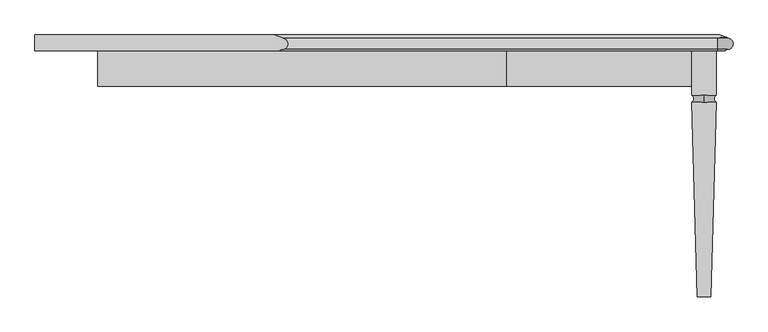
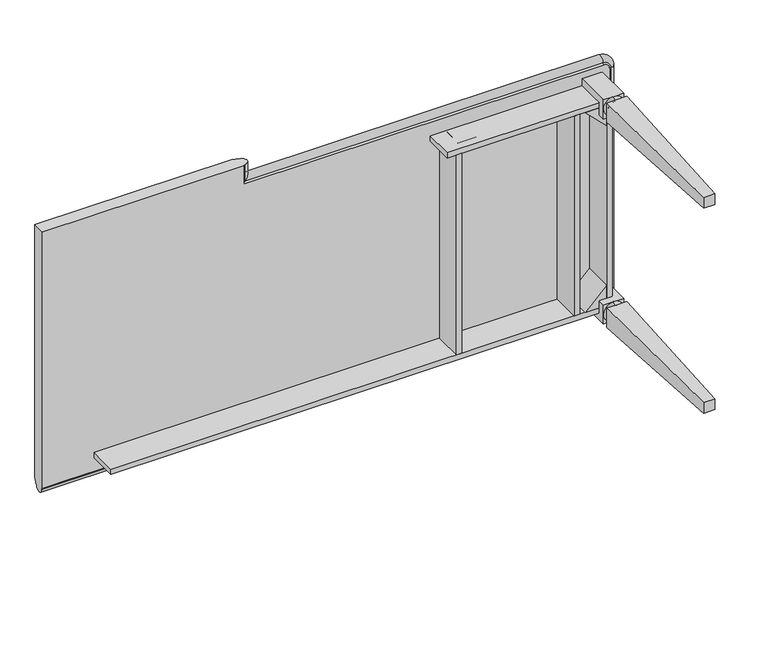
"""IFC4 building model written with IfcOpenShell, lengths in millimetres: proxy geometry, CCN^BRIGHTON_L4 30x78 TABLE DESK-PARTS SOLID."""

from ifc_helpers import new_model, si_unit, point, frame, origin, place, context, project, spatial, polyline, circle_curve, ellipse_curve, trimmed, outline, extrude, source, transform, mapped, element, save
from ifc_brep_helpers import plane_surface, cylinder_surface, revolved_surface, advanced_brep


def generic_models_2689ce13(model_context):
    return source(origin(), model_context, "Body", "SolidModel", [
        advanced_brep(
        [(1981.2, 571.5, -727.075), (1981.2, 561.975, -733.425), (1981.2, 552.45, -727.075), (2016.125, 552.45, -762.0), (1981.2, 552.45, -796.925), (1981.2, 561.975, -790.575), (1981.2, 571.5, -796.925), (2016.125, 571.5, -762.0), (1946.275, 704.85, -796.925), (1946.275, 704.85, -727.075), (2016.125, 704.85, -727.075), (2016.125, 704.85, -796.925), (1946.275, 571.5, -727.075), (2016.125, 571.5, -727.075), (1946.275, 571.5, -762.0), (2016.125, 552.45, -796.925), (2000.25, 0.0, -781.5791667), (1962.15, 0.0, -781.5791667), (1946.275, 552.45, -796.925), (2000.25, 0.0, -742.4208333), (2016.125, 552.45, -727.075), (1946.275, 552.45, -727.075), (1962.15, 0.0, -742.4208333), (1946.275, 552.45, -762.0), (1946.275, 571.5, -796.925), (2016.125, 571.5, -796.925)],
        [
            (0, 1, circle_curve(frame((1981.2, 561.975, -723.10625), z_axis=(-1.0, 0.0, 0.0), x_axis=(0.0, 0.0, 1.0)), 10.31875)),
            (1, 2, circle_curve(frame((1981.2, 561.975, -723.10625), z_axis=(-1.0, 0.0, 0.0), x_axis=(0.0, 0.0, 1.0)), 10.31875)),
            (2, 3, circle_curve(frame((1981.2, 552.45, -762.0), z_axis=(0.0, 1.0, 0.0), x_axis=(0.0, 0.0, 1.0)), 34.925)),
            (3, 4, circle_curve(frame((1981.2, 552.45, -762.0), z_axis=(0.0, 1.0, 0.0), x_axis=(0.0, 0.0, 1.0)), 34.925)),
            (4, 5, circle_curve(frame((1981.2, 561.975, -800.89375), z_axis=(-1.0, 0.0, 0.0), x_axis=(0.0, 0.0, -1.0)), 10.31875)),
            (5, 6, circle_curve(frame((1981.2, 561.975, -800.89375), z_axis=(-1.0, 0.0, 0.0), x_axis=(0.0, 0.0, -1.0)), 10.31875)),
            (6, 7, circle_curve(frame((1981.2, 571.5, -762.0), z_axis=(0.0, -1.0, 0.0), x_axis=(0.0, 0.0, 1.0)), 34.925)),
            (7, 0, circle_curve(frame((1981.2, 571.5, -762.0), z_axis=(0.0, -1.0, 0.0), x_axis=(0.0, 0.0, 1.0)), 34.925)),
            (8, 9),
            (9, 10),
            (10, 11),
            (11, 8),
            (9, 12),
            (12, 0),
            (0, 13),
            (13, 10),
            (12, 14),
            (14, 0, circle_curve(frame((1981.2, 571.5, -762.0), z_axis=(0.0, 1.0, 0.0), x_axis=(0.0, 0.0, -1.0)), 34.925)),
            (15, 16),
            (16, 17),
            (17, 18),
            (18, 4),
            (4, 15),
            (19, 20),
            (20, 2),
            (2, 21),
            (21, 22),
            (22, 19),
            (15, 3),
            (3, 20),
            (19, 16),
            (17, 22),
            (21, 23),
            (23, 18),
            (14, 6, circle_curve(frame((1981.2, 571.5, -762.0), z_axis=(0.0, -1.0, 0.0), x_axis=(0.0, 0.0, -1.0)), 34.925)),
            (4, 23, circle_curve(frame((1981.2, 552.45, -762.0), z_axis=(0.0, 1.0, 0.0), x_axis=(0.0, 0.0, -1.0)), 34.925)),
            (23, 2, circle_curve(frame((1981.2, 552.45, -762.0), z_axis=(0.0, 1.0, 0.0), x_axis=(0.0, 0.0, -1.0)), 34.925)),
            (14, 24),
            (24, 6),
            (7, 13),
            (6, 25),
            (25, 7),
            (8, 24),
            (25, 11),
        ],
        [
            revolved_surface(trimmed(ellipse_curve(frame((1981.2, 561.975, -723.10625), z_axis=(1.0, 0.0, 0.0), x_axis=(0.0, 0.0, 1.0)), 10.31875, 10.31875), [point((1981.2, 552.45, -727.075))], [point((1981.2, 571.5, -727.075))], True, "CARTESIAN"), (1981.2, 561.975, -762.0), (0.0, 1.0, 0.0)),
            plane_surface(frame((1981.2, 704.85, -762.0), z_axis=(0.0, 1.0, 0.0), x_axis=(0.0, 0.0, -1.0))),
            plane_surface(frame((2016.125, 704.85, -727.075), z_axis=(0.0, 0.0, 1.0), x_axis=(-1.0, 0.0, 0.0))),
            plane_surface(frame((1981.2, 571.5, -762.0), z_axis=(0.0, -1.0, 0.0), x_axis=(0.0, 0.0, -1.0))),
            plane_surface(frame((-22.225, 552.45, -796.925), z_axis=(0.0, -0.027767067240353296, -0.9996144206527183), x_axis=(0.0, -0.9996144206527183, 0.027767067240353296))),
            plane_surface(frame((-22.225, -19.05, -742.95), z_axis=(0.0, -0.02776706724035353, 0.9996144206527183), x_axis=(0.0, 0.9996144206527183, 0.02776706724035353))),
            plane_surface(frame((2016.125, 552.45, -796.925), z_axis=(0.9995873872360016, -0.028723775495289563, 0.0), x_axis=(-0.028723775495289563, -0.9995873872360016, 0.0))),
            plane_surface(frame((1962.15, 0.0, -796.925), z_axis=(-0.9995873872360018, -0.028723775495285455, 0.0), x_axis=(-0.028723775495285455, 0.9995873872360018, 0.0))),
            revolved_surface(trimmed(ellipse_curve(frame((1981.2, 561.975, -800.89375), z_axis=(-1.0, 0.0, 0.0), x_axis=(0.0, 0.0, -1.0)), 10.31875, 10.31875), [point((1981.2, 552.45, -796.925))], [point((1981.2, 571.5, -796.925))], True, "CARTESIAN"), (1981.2, 561.975, -762.0), (0.0, 1.0, 0.0)),
            plane_surface(frame((1981.2, 552.45, -762.0), z_axis=(0.0, 1.0, 0.0), x_axis=(0.0, 0.0, -1.0))),
            plane_surface(frame((1946.275, 704.85, -727.075), z_axis=(-1.0, 0.0, 0.0), x_axis=(0.0, 0.0, -1.0))),
            plane_surface(frame((2016.125, 704.85, -796.925), z_axis=(1.0, 0.0, 0.0), x_axis=(0.0, 0.0, 1.0))),
            plane_surface(frame((1946.275, 704.85, -796.925), z_axis=(0.0, 0.0, -1.0), x_axis=(1.0, 0.0, 0.0))),
            plane_surface(frame((1981.2, 0.0, -762.0), z_axis=(0.0, -1.0, 0.0), x_axis=(0.0, 0.0, -1.0))),
        ],
        [
            (0, [[1, 2, 3, 4, 5, 6, 7, 8]]),
            (1, [[9, 10, 11, 12]]),
            (2, [[13, 14, 15, 16, -10]]),
            (3, [[17, 18, -14]]),
            (4, [[19, 20, 21, 22, 23]]),
            (5, [[24, 25, 26, 27, 28]]),
            (6, [[-19, 29, 30, -24, 31]]),
            (7, [[-21, 32, -27, 33, 34]]),
            (8, [[-1, -18, 35, -6, -5, 36, 37, -2]]),
            (3, [[-35, 38, 39]]),
            (3, [[-8, 40, -15]]),
            (3, [[-7, 41, 42]]),
            (9, [[-4, -29, -23]]),
            (9, [[-3, -25, -30]]),
            (9, [[-37, -33, -26]]),
            (9, [[-36, -22, -34]]),
            (10, [[-9, 43, -38, -17, -13]]),
            (11, [[-40, -42, 44, -11, -16]]),
            (12, [[-41, -39, -43, -12, -44]]),
            (13, [[-20, -31, -28, -32]]),
        ],
    ),
        extrude(outline(polyline([(1878.6039755, 704.85), (1878.6039755, 596.9), (1859.5539755, 596.9), (1859.5539755, 704.85), (1878.6039755, 704.85)])), frame((0.0, 0.0, -752.475), z_axis=(0.0, 0.0, 1.0), x_axis=(1.0, 0.0, 0.0)), (0.0, 0.0, 1.0), 730.25),
        extrude(outline(polyline([(-752.475, 1971.675), (-678.4539755, 1971.675), (-752.475, 1897.6539755), (-752.475, 1971.675)])), frame((0.0, 596.9, 0.0), z_axis=(0.0, 1.0, 0.0), x_axis=(0.0, 0.0, 1.0)), (0.0, 0.0, 1.0), 107.95),
        advanced_brep(
        [(1981.2, 571.5, 22.225), (1981.2, 561.975, 15.875), (1981.2, 552.45, 22.225), (2016.125, 552.45, -12.7), (1981.2, 552.45, -47.625), (1981.2, 561.975, -41.275), (1981.2, 571.5, -47.625), (2016.125, 571.5, -12.7), (2016.125, 704.85, -47.625), (1946.275, 704.85, -47.625), (1946.275, 704.85, 22.225), (2016.125, 704.85, 22.225), (1946.275, 571.5, -47.625), (1946.275, 571.5, -12.7), (1946.275, 571.5, 22.225), (2000.25, 0.0, 6.8791667), (2016.125, 552.45, 22.225), (1946.275, 552.45, 22.225), (1962.15, 0.0, 6.8791667), (2016.125, 552.45, -47.625), (2000.25, 0.0, -32.2791667), (1962.15, 0.0, -32.2791667), (1946.275, 552.45, -47.625), (1946.275, 552.45, -12.7), (2016.125, 571.5, 22.225), (2016.125, 571.5, -47.625)],
        [
            (0, 1, circle_curve(frame((1981.2, 561.975, 26.19375), z_axis=(-1.0, 0.0, 0.0), x_axis=(0.0, 0.0, 1.0)), 10.31875)),
            (1, 2, circle_curve(frame((1981.2, 561.975, 26.19375), z_axis=(-1.0, 0.0, 0.0), x_axis=(0.0, 0.0, 1.0)), 10.31875)),
            (2, 3, circle_curve(frame((1981.2, 552.45, -12.7), z_axis=(0.0, 1.0, 0.0), x_axis=(0.0, 0.0, 1.0)), 34.925)),
            (3, 4, circle_curve(frame((1981.2, 552.45, -12.7), z_axis=(0.0, 1.0, 0.0), x_axis=(0.0, 0.0, 1.0)), 34.925)),
            (4, 5, circle_curve(frame((1981.2, 561.975, -51.59375), z_axis=(-1.0, 0.0, 0.0), x_axis=(0.0, 0.0, -1.0)), 10.31875)),
            (5, 6, circle_curve(frame((1981.2, 561.975, -51.59375), z_axis=(-1.0, 0.0, 0.0), x_axis=(0.0, 0.0, -1.0)), 10.31875)),
            (6, 7, circle_curve(frame((1981.2, 571.5, -12.7), z_axis=(0.0, -1.0, 0.0), x_axis=(0.0, 0.0, 1.0)), 34.925)),
            (7, 0, circle_curve(frame((1981.2, 571.5, -12.7), z_axis=(0.0, -1.0, 0.0), x_axis=(0.0, 0.0, 1.0)), 34.925)),
            (8, 9),
            (9, 10),
            (10, 11),
            (11, 8),
            (9, 12),
            (12, 13),
            (13, 14),
            (14, 10),
            (12, 6),
            (6, 13, circle_curve(frame((1981.2, 571.5, -12.7), z_axis=(0.0, 1.0, 0.0), x_axis=(0.0, 0.0, -1.0)), 34.925)),
            (15, 16),
            (16, 2),
            (2, 17),
            (17, 18),
            (18, 15),
            (19, 20),
            (20, 21),
            (21, 22),
            (22, 4),
            (4, 19),
            (18, 21),
            (20, 15),
            (17, 23),
            (23, 22),
            (19, 3),
            (3, 16),
            (0, 13, circle_curve(frame((1981.2, 571.5, -12.7), z_axis=(0.0, -1.0, 0.0), x_axis=(0.0, 0.0, -1.0)), 34.925)),
            (4, 23, circle_curve(frame((1981.2, 552.45, -12.7), z_axis=(0.0, 1.0, 0.0), x_axis=(0.0, 0.0, -1.0)), 34.925)),
            (23, 2, circle_curve(frame((1981.2, 552.45, -12.7), z_axis=(0.0, 1.0, 0.0), x_axis=(0.0, 0.0, -1.0)), 34.925)),
            (0, 14),
            (7, 24),
            (24, 0),
            (6, 25),
            (25, 7),
            (25, 8),
            (11, 24),
        ],
        [
            revolved_surface(trimmed(ellipse_curve(frame((1981.2, 561.975, 26.19375), z_axis=(1.0, 0.0, 0.0), x_axis=(0.0, 0.0, 1.0)), 10.31875, 10.31875), [point((1981.2, 552.45, 22.225))], [point((1981.2, 571.5, 22.225))], True, "CARTESIAN"), (1981.2, 561.975, -12.7), (0.0, 1.0, 0.0)),
            plane_surface(frame((1981.2, 704.85, -12.7), z_axis=(0.0, 1.0, 0.0), x_axis=(0.0, 0.0, -1.0))),
            plane_surface(frame((1946.275, 704.85, 22.225), z_axis=(-1.0, 0.0, 0.0), x_axis=(0.0, 0.0, -1.0))),
            plane_surface(frame((1981.2, 571.5, -12.7), z_axis=(0.0, -1.0, 0.0), x_axis=(0.0, 0.0, -1.0))),
            plane_surface(frame((-22.225, -19.05, 6.35), z_axis=(0.0, -0.027767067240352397, 0.9996144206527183), x_axis=(0.0, 0.9996144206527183, 0.027767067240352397))),
            plane_surface(frame((-22.225, 552.45, -47.625), z_axis=(0.0, -0.027767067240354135, -0.9996144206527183), x_axis=(0.0, -0.9996144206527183, 0.027767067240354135))),
            plane_surface(frame((1981.2, 0.0, -12.7), z_axis=(0.0, -1.0, 0.0), x_axis=(0.0, 0.0, -1.0))),
            plane_surface(frame((1962.15, 0.0, -796.925), z_axis=(-0.9995873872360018, -0.028723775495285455, 0.0), x_axis=(-0.028723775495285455, 0.9995873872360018, 0.0))),
            plane_surface(frame((2016.125, 552.45, -796.925), z_axis=(0.9995873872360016, -0.028723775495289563, 0.0), x_axis=(-0.028723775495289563, -0.9995873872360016, 0.0))),
            revolved_surface(trimmed(ellipse_curve(frame((1981.2, 561.975, -51.59375), z_axis=(-1.0, 0.0, 0.0), x_axis=(0.0, 0.0, -1.0)), 10.31875, 10.31875), [point((1981.2, 552.45, -47.625))], [point((1981.2, 571.5, -47.625))], True, "CARTESIAN"), (1981.2, 561.975, -12.7), (0.0, 1.0, 0.0)),
            plane_surface(frame((1981.2, 552.45, -12.7), z_axis=(0.0, 1.0, 0.0), x_axis=(0.0, 0.0, -1.0))),
            plane_surface(frame((2016.125, 704.85, -47.625), z_axis=(1.0, 0.0, 0.0), x_axis=(0.0, 0.0, 1.0))),
            plane_surface(frame((1946.275, 704.85, -47.625), z_axis=(0.0, 0.0, -1.0), x_axis=(1.0, 0.0, 0.0))),
            plane_surface(frame((2016.125, 704.85, 22.225), z_axis=(0.0, 0.0, 1.0), x_axis=(-1.0, 0.0, 0.0))),
        ],
        [
            (0, [[1, 2, 3, 4, 5, 6, 7, 8]]),
            (1, [[9, 10, 11, 12]]),
            (2, [[13, 14, 15, 16, -10]]),
            (3, [[17, 18, -14]]),
            (4, [[19, 20, 21, 22, 23]]),
            (5, [[24, 25, 26, 27, 28]]),
            (6, [[-23, 29, -25, 30]]),
            (7, [[-22, 31, 32, -26, -29]]),
            (8, [[-19, -30, -24, 33, 34]]),
            (9, [[-1, 35, -18, -6, -5, 36, 37, -2]]),
            (3, [[-35, 38, -15]]),
            (3, [[-8, 39, 40]]),
            (3, [[-7, 41, 42]]),
            (10, [[-4, -33, -28]]),
            (10, [[-3, -20, -34]]),
            (10, [[-37, -31, -21]]),
            (10, [[-36, -27, -32]]),
            (11, [[-39, -42, 43, -12, 44]]),
            (12, [[-9, -43, -41, -17, -13]]),
            (13, [[-38, -40, -44, -11, -16]]),
        ],
    ),
        extrude(outline(polyline([(1453.1539755, 596.9), (1453.1539755, 704.85), (1472.2039755, 704.85), (1472.2039755, 596.9), (1453.1539755, 596.9)])), frame((0.0, 0.0, -752.475), z_axis=(0.0, 0.0, 1.0), x_axis=(1.0, 0.0, 0.0)), (0.0, 0.0, 1.0), 730.25),
        extrude(outline(polyline([(1421.4039755, 596.9), (1421.4039755, 704.85), (1946.275, 704.85), (1946.275, 596.9), (1421.4039755, 596.9)])), frame((0.0, 0.0, -22.225), z_axis=(0.0, 0.0, 1.0), x_axis=(1.0, 0.0, 0.0)), (0.0, 0.0, 1.0), 19.05),
        extrude(outline(polyline([(1971.675, 704.85), (1990.725, 704.85), (1990.725, 596.9), (1971.675, 596.9), (1971.675, 704.85)])), frame((0.0, 0.0, -727.075), z_axis=(0.0, 0.0, 1.0), x_axis=(1.0, 0.0, 0.0)), (0.0, 0.0, 1.0), 679.45),
        extrude(outline(polyline([(1857.1727255, 624.68125), (1474.5852255, 624.68125), (1474.5852255, 689.76875), (1857.1727255, 689.76875), (1857.1727255, 624.68125)])), frame((0.0, 0.0, -22.225), z_axis=(0.0, 0.0, 1.0), x_axis=(1.0, 0.0, 0.0)), (0.0, 0.0, 1.0), 19.05),
        extrude(outline(polyline([(-22.225, 1971.675), (-22.225, 1897.6539755), (-96.2460245, 1971.675), (-22.225, 1971.675)])), frame((0.0, 596.9, 0.0), z_axis=(0.0, 1.0, 0.0), x_axis=(0.0, 0.0, 1.0)), (0.0, 0.0, 1.0), 107.95),
        extrude(outline(polyline([(260.35, 596.9), (260.35, 704.85), (1946.275, 704.85), (1946.275, 596.9), (260.35, 596.9)])), frame((0.0, 0.0, -771.525), z_axis=(0.0, 0.0, 1.0), x_axis=(1.0, 0.0, 0.0)), (0.0, 0.0, 1.0), 19.05),
        advanced_brep(
        [(82.55, 742.95, 114.3), (82.55, 698.5, 114.3), (777.1382387, 698.5, 114.3), (783.0910714, 701.6587803, 114.3), (784.225, 733.3682311, 114.3), (784.225, 734.9557311, 114.3), (762.2609266, 742.95, 114.3), (82.55, 698.5, -821.5882387), (2019.3, 698.5, -821.5882387), (2040.7882387, 698.5, -800.1), (2040.7882387, 698.5, 25.4), (2019.3, 698.5, 46.8882387), (777.1382387, 698.5, 46.8882387), (82.55, 701.6587803, -827.5410714), (2019.3, 701.6587803, -827.5410714), (82.55, 733.3682311, -828.675), (2019.3, 733.3682311, -828.675), (82.55, 734.9557311, -828.675), (2019.3, 734.9557311, -828.675), (2039.5055763, 738.0019522, 45.6055763), (2047.875, 734.9557311, 25.4), (2047.875, 734.9557311, -800.1), (2039.5055763, 738.0019522, -820.3055763), (2025.9109266, 742.95, -806.7109266), (2025.9109266, 742.95, 32.0109266), (762.2609266, 742.95, 32.0109266), (784.225, 734.9557311, 53.975), (2019.3, 734.9557311, 53.975), (2019.3, 733.3682311, 53.975), (2047.875, 733.3682311, 25.4), (82.55, 742.95, -806.7109266), (2047.875, 733.3682311, -800.1), (782.6375, 701.675, 52.3875), (783.0910714, 701.6587803, 52.8410714), (784.225, 701.6182311, 53.975), (784.225, 733.3682311, 53.975), (2019.3, 701.6587803, 52.8410714), (2046.7410714, 701.6587803, -800.1), (2046.7410714, 701.6587803, 25.4)],
        [
            (0, 1),
            (1, 2),
            (2, 3, circle_curve(frame((782.6375, 695.325, 114.3), z_axis=(0.0, 0.0, -1.0), x_axis=(-0.07142857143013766, -0.9974457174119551, 0.0)), 6.35)),
            (3, 4, circle_curve(frame((784.225, 717.4932311, 114.3), z_axis=(0.0, 0.0, 1.0), x_axis=(0.9993612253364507, -0.03573711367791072, 0.0)), 15.875)),
            (4, 5),
            (5, 6),
            (6, 0),
            (1, 7),
            (7, 8),
            (8, 9, circle_curve(frame((2019.3, 698.5, -800.1), z_axis=(0.0, -1.0, 0.0), x_axis=(1.0, 0.0, 0.0)), 21.4882387)),
            (9, 10),
            (10, 11, circle_curve(frame((2019.3, 698.5, 25.4), z_axis=(0.0, -1.0, 0.0), x_axis=(0.0, 0.0, 1.0)), 21.4882387)),
            (11, 12),
            (12, 2),
            (7, 13, circle_curve(frame((82.55, 695.325, -827.0875), z_axis=(-1.0, 0.0, 0.0), x_axis=(0.0, 0.9974457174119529, -0.07142857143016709)), 6.35)),
            (13, 14),
            (14, 8, circle_curve(frame((2019.3, 695.325, -827.0875), z_axis=(1.0, 0.0, 0.0), x_axis=(0.0, 0.9974457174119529, -0.07142857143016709)), 6.35)),
            (13, 15, circle_curve(frame((82.55, 717.4932311, -828.675), z_axis=(1.0, 0.0, 0.0), x_axis=(0.0, 0.996424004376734, -0.08449380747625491)), 15.875)),
            (15, 16),
            (16, 14, circle_curve(frame((2019.3, 717.4932311, -828.675), z_axis=(-1.0, 0.0, 0.0), x_axis=(0.0, 0.996424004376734, -0.08449380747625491)), 15.875)),
            (15, 17),
            (17, 18),
            (18, 16),
            (19, 20, ellipse_curve(frame((2019.3, 745.3561805, 25.4), z_axis=(0.3420201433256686, 0.9396926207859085, 0.0), x_axis=(-0.9396926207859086, 0.34202014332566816, 0.0)), 30.4088798, 28.575)),
            (20, 21),
            (21, 22, ellipse_curve(frame((2019.3, 745.3561805, -800.1), z_axis=(0.3420201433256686, 0.9396926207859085, 0.0), x_axis=(-0.9396926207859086, 0.34202014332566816, 0.0)), 30.4088798, 28.575)),
            (22, 23),
            (23, 24),
            (24, 19),
            (24, 25),
            (25, 26),
            (26, 27),
            (27, 19, ellipse_curve(frame((2019.3, 745.3561805, 25.4), z_axis=(0.0, 0.9396926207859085, 0.3420201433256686), x_axis=(0.0, 0.34202014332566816, -0.9396926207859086)), 30.4088798, 28.575)),
            (27, 28),
            (28, 29, circle_curve(frame((2019.3, 733.3682311, 25.4), z_axis=(0.0, 1.0, 0.0), x_axis=(0.0, 0.0, 1.0)), 28.575)),
            (29, 20),
            (17, 30),
            (30, 23),
            (22, 18, ellipse_curve(frame((2019.3, 745.3561805, -800.1), z_axis=(0.0, 0.9396926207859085, -0.3420201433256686), x_axis=(0.0, 0.34202014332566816, 0.9396926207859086)), 30.4088798, 28.575)),
            (21, 31),
            (31, 16, circle_curve(frame((2019.3, 733.3682311, -800.1), z_axis=(0.0, 1.0, 0.0), x_axis=(1.0, 0.0, 0.0)), 28.575)),
            (5, 26),
            (25, 6),
            (30, 0),
            (12, 32, ellipse_curve(frame((782.6375, 695.325, 52.3875), z_axis=(0.7071067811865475, 0.0, -0.7071067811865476), x_axis=(-0.7071067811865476, 0.0, -0.7071067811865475)), 8.9802561, 6.35)),
            (32, 33, ellipse_curve(frame((782.6375, 695.325, 52.3875), z_axis=(0.7071067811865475, 0.0, -0.7071067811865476), x_axis=(-0.7071067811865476, 0.0, -0.7071067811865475)), 8.9802561, 6.35)),
            (33, 3),
            (33, 34, ellipse_curve(frame((784.225, 717.4932311, 53.975), z_axis=(-0.7071067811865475, 0.0, 0.7071067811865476), x_axis=(-0.7071067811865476, 0.0, -0.7071067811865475)), 22.4506403, 15.875)),
            (34, 35, ellipse_curve(frame((784.225, 717.4932311, 53.975), z_axis=(-0.7071067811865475, 0.0, 0.7071067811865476), x_axis=(-0.7071067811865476, 0.0, -0.7071067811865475)), 22.4506403, 15.875)),
            (35, 4),
            (35, 26),
            (35, 28),
            (33, 36),
            (36, 28, circle_curve(frame((2019.3, 717.4932311, 53.975), z_axis=(-1.0, 0.0, 0.0), x_axis=(0.0, 0.996424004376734, 0.08449380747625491)), 15.875)),
            (11, 36, circle_curve(frame((2019.3, 695.325, 52.3875), z_axis=(1.0, 0.0, 0.0), x_axis=(0.0, 0.9974457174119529, 0.07142857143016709)), 6.35)),
            (37, 9, circle_curve(frame((2046.2875, 695.325, -800.1), z_axis=(0.0, 0.0, 1.0), x_axis=(1.0, 0.0, 0.0)), 6.35)),
            (14, 37, circle_curve(frame((2019.3, 701.6587803, -800.1), z_axis=(0.0, -1.0, 0.0), x_axis=(1.0, 0.0, 0.0)), 27.4410714)),
            (38, 10, circle_curve(frame((2046.2875, 695.325, 25.4), z_axis=(0.0, 0.0, 1.0), x_axis=(0.07142857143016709, 0.9974457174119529, 0.0)), 6.35)),
            (37, 38),
            (38, 36, circle_curve(frame((2019.3, 701.6587803, 25.4), z_axis=(0.0, -1.0, 0.0), x_axis=(0.0, 0.0, 1.0)), 27.4410714)),
            (31, 37, circle_curve(frame((2047.875, 717.4932311, -800.1), z_axis=(0.0, 0.0, -1.0), x_axis=(1.0, 0.0, 0.0)), 15.875)),
            (29, 31),
            (29, 38, circle_curve(frame((2047.875, 717.4932311, 25.4), z_axis=(0.0, 0.0, -1.0), x_axis=(0.08449380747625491, 0.996424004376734, 0.0)), 15.875)),
        ],
        [
            plane_surface(frame((419.1, 723.9, 114.3), z_axis=(0.0, 0.0, 1.0), x_axis=(1.0, 0.0, 0.0))),
            plane_surface(frame((996.95, 698.5, -387.35), z_axis=(0.0, -1.0, 0.0), x_axis=(0.0, 0.0, 1.0))),
            revolved_surface(polyline([(82.55000000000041, 701.658780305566, -827.5410714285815), (2019.3, 701.658780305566, -827.5410714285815)]), (2019.3, 695.325, -827.0875), (-0.9999999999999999, 0.0, 0.0)),
            cylinder_surface(frame((2019.3, 717.4932311, -828.675), z_axis=(-0.9999999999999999, 0.0, 0.0), x_axis=(0.0, 0.996424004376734, -0.08449380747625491)), 15.875),
            plane_surface(frame((2019.3, 733.3682311, -828.675), z_axis=(0.0, 0.0, -1.0), x_axis=(0.0, 1.0, 0.0))),
            plane_surface(frame((2047.875, 734.9557311, 25.4), z_axis=(0.3420201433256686, 0.9396926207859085, 0.0), x_axis=(-0.9396926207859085, 0.3420201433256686, 0.0))),
            plane_surface(frame((-25.4, 734.9557311, 53.975), z_axis=(0.0, 0.9396926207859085, 0.3420201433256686), x_axis=(0.0, 0.3420201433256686, -0.9396926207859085))),
            cylinder_surface(frame((2019.3, 734.1619811, 25.4), z_axis=(0.0, 1.0, 0.0), x_axis=(0.0, 0.0, 1.0)), 28.575),
            plane_surface(frame((2019.3, 734.9557311, -828.675), z_axis=(0.0, 0.9396926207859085, -0.3420201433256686), x_axis=(0.0, 0.3420201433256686, 0.9396926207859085))),
            cylinder_surface(frame((2019.3, 734.1619811, -800.1), z_axis=(0.0, 1.0, 0.0), x_axis=(1.0, 0.0, 0.0)), 28.575),
            plane_surface(frame((769.3531721, 740.3686338, 114.3), z_axis=(0.3420201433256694, 0.9396926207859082, 0.0), x_axis=(0.9396926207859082, -0.3420201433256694, 0.0))),
            plane_surface(frame((996.95, 742.95, -387.35), z_axis=(0.0, 1.0, 0.0), x_axis=(0.0, 0.0, 1.0))),
            revolved_surface(polyline([(782.1839285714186, 688.9912196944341, 46.03750001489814), (782.1839285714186, 688.9912196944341, 114.3)]), (782.6375, 695.325, 114.3), (0.0, 0.0, -1.0)),
            cylinder_surface(frame((784.225, 717.4932311, 114.3), z_axis=(0.0, 0.0, -1.0), x_axis=(0.9993612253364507, -0.03573711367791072, 0.0)), 15.875),
            plane_surface(frame((784.225, 734.9557311, 114.3), z_axis=(1.0, 0.0, 0.0), x_axis=(0.0, -1.0, 0.0))),
            plane_surface(frame((-25.4, 733.3682311, 53.975), z_axis=(0.0, 0.0, 1.0), x_axis=(0.0, 1.0, 0.0))),
            cylinder_surface(frame((-25.4, 717.4932311, 53.975), z_axis=(0.9999999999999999, 0.0, 0.0), x_axis=(0.0, 0.996424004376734, 0.08449380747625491)), 15.875),
            revolved_surface(polyline([(2019.2999999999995, 701.658780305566, 52.841071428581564), (776.287500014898, 701.658780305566, 52.841071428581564)]), (-25.4, 695.325, 52.3875), (0.9999999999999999, 0.0, 0.0)),
            revolved_surface(trimmed(ellipse_curve(frame((2046.2875, 695.325, -800.1), z_axis=(0.0, 0.0, -1.0), x_axis=(1.0, 0.0, 0.0)), 6.35, 6.35), [point((2040.7882387, 698.5, -800.1))], [point((2046.7410714, 701.6587803, -800.1))], True, "CARTESIAN"), (2019.3, 695.325, -800.1), (0.0, 1.0, 0.0)),
            revolved_surface(polyline([(2046.7410714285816, 701.658780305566, -800.0999999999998), (2046.7410714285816, 701.658780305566, 25.4)]), (2046.2875, 695.325, 25.4), (0.0, 0.0, -0.9999999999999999)),
            revolved_surface(trimmed(ellipse_curve(frame((2019.3, 695.325, 52.3875), z_axis=(1.0, 0.0, 0.0), x_axis=(0.0, 0.0, 1.0)), 6.35, 6.35), [point((2019.3, 698.5, 46.8882387))], [point((2019.3, 701.6587803, 52.8410714))], True, "CARTESIAN"), (2019.3, 695.325, 25.4), (0.0, 1.0, 0.0)),
            revolved_surface(trimmed(ellipse_curve(frame((2047.875, 717.4932311, -800.1), z_axis=(0.0, 0.0, 1.0), x_axis=(1.0, 0.0, 0.0)), 15.875, 15.875), [point((2046.7410714, 701.6587803, -800.1))], [point((2047.875, 733.3682311, -800.1))], True, "CARTESIAN"), (2019.3, 717.4932311, -800.1), (0.0, 1.0, 0.0)),
            plane_surface(frame((2047.875, 733.3682311, 25.4), z_axis=(1.0, 0.0, 0.0), x_axis=(0.0, 1.0, 0.0))),
            cylinder_surface(frame((2047.875, 717.4932311, 25.4), z_axis=(0.0, 0.0, -0.9999999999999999), x_axis=(0.08449380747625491, 0.996424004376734, 0.0)), 15.875),
            revolved_surface(trimmed(ellipse_curve(frame((2019.3, 717.4932311, 53.975), z_axis=(-1.0, 0.0, 0.0), x_axis=(0.0, 0.0, 1.0)), 15.875, 15.875), [point((2019.3, 701.6587803, 52.8410714))], [point((2019.3, 733.3682311, 53.975))], True, "CARTESIAN"), (2019.3, 717.4932311, 25.4), (0.0, 1.0, 0.0)),
            plane_surface(frame((82.55, 720.725, -409.575), z_axis=(-1.0, 0.0, 0.0), x_axis=(0.0, 0.0, 1.0))),
        ],
        [
            (0, [[1, 2, 3, 4, 5, 6, 7]]),
            (1, [[8, 9, 10, 11, 12, 13, 14, -2]]),
            (2, [[-9, 15, 16, 17]]),
            (3, [[-16, 18, 19, 20]]),
            (4, [[-19, 21, 22, 23]]),
            (5, [[24, 25, 26, 27, 28, 29]]),
            (6, [[-29, 30, 31, 32, 33]]),
            (7, [[-24, -33, 34, 35, 36]]),
            (8, [[-22, 37, 38, -27, 39]]),
            (9, [[-39, -26, 40, 41, -23]]),
            (10, [[-6, 42, -31, 43]]),
            (11, [[-28, -38, 44, -7, -43, -30]]),
            (12, [[45, 46, 47, -3, -14]]),
            (13, [[48, 49, 50, -4, -47]]),
            (14, [[51, -42, -5, -50]]),
            (15, [[-51, 52, -34, -32]]),
            (16, [[-49, -48, 53, 54, -52]]),
            (17, [[-46, -45, -13, 55, -53]]),
            (18, [[56, -10, -17, 57]]),
            (19, [[58, -11, -56, 59]]),
            (20, [[-55, -12, -58, 60]]),
            (21, [[61, -57, -20, -41]]),
            (22, [[-36, 62, -40, -25]]),
            (23, [[63, -59, -61, -62]]),
            (24, [[-54, -60, -63, -35]]),
            (25, [[-1, -44, -37, -21, -18, -15, -8]]),
        ],
    ),
    ])


if __name__ == "__main__":
    model = new_model("IFC4")
    model_context = context("Model", 3, world=origin())
    ifc_project = project(units=[si_unit("LENGTHUNIT", "METRE", prefix="MILLI")], contexts=[model_context])
    site = spatial("IfcSite", under=ifc_project)
    building = spatial("IfcBuilding", under=site)
    placement = place(None, origin())
    generic_models_shape = generic_models_2689ce13(model_context)
    element("IfcBuildingElementProxy", 1, Name="CCN^BRIGHTON_L4 30x78 TABLE DESK-PARTS SOLID", ObjectType="CCN^BRIGHTON_L4 30x78 TABLE DESK-PARTS SOLID", at=placement, inside=building, context=model_context, shape_type="MappedRepresentation", body=[
        mapped(generic_models_shape, transform((0.0, 0.0, 0.0), x_axis=(1.0, 0.0, 0.0), y_axis=(0.0, 1.0, 0.0), z_axis=(0.0, 0.0, 1.0))),
    ])
    save(model, "model.ifc")
